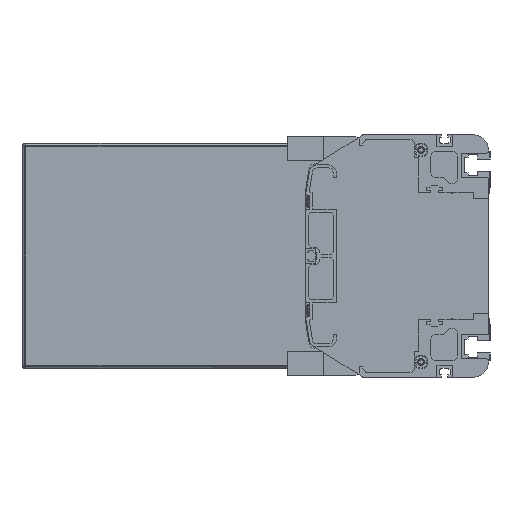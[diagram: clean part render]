
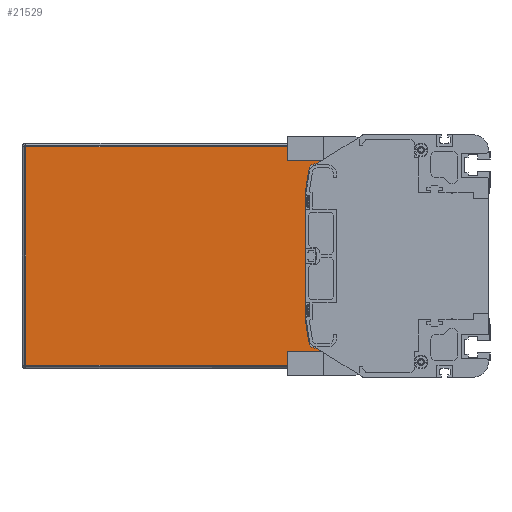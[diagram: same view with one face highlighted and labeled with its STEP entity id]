
A CAD part, left-side view. The second image highlights one B-rep face of the part: STEP entity #21529.
In plain terms, the highlighted planar face has unit normal (-1, 0, 0).
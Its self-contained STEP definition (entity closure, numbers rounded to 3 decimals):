
#260=DIRECTION('',(0.,-1.,0.));
#261=VECTOR('',#260,220.5);
#262=CARTESIAN_POINT('',(2486.5,306.5,-72.));
#263=LINE('',#262,#261);
#461=DIRECTION('',(0.,0.,-1.));
#462=VECTOR('',#461,11.);
#463=CARTESIAN_POINT('',(2486.5,86.,-61.));
#464=LINE('',#463,#462);
#470=DIRECTION('',(0.,0.,-1.));
#471=VECTOR('',#470,11.);
#472=CARTESIAN_POINT('',(2486.5,86.,72.));
#473=LINE('',#472,#471);
#479=CARTESIAN_POINT('',(2486.5,114.728,56.));
#480=DIRECTION('',(-1.,0.,0.));
#481=DIRECTION('',(0.,0.,1.));
#482=AXIS2_PLACEMENT_3D('',#479,#480,#481);
#484=DIRECTION('',(0.,0.156,-0.988));
#485=VECTOR('',#484,14.963);
#486=CARTESIAN_POINT('',(2486.5,119.666,56.78));
#487=LINE('',#486,#485);
#488=DIRECTION('',(0.,-0.156,-0.988));
#489=VECTOR('',#488,14.963);
#490=CARTESIAN_POINT('',(2486.5,122.,-42.));
#491=LINE('',#490,#489);
#492=CARTESIAN_POINT('',(2486.5,114.728,-56.));
#493=DIRECTION('',(-1.,0.,0.));
#494=DIRECTION('',(0.,0.988,-0.156));
#495=AXIS2_PLACEMENT_3D('',#492,#493,#494);
#501=DIRECTION('',(0.,0.,-1.));
#502=VECTOR('',#501,144.);
#503=CARTESIAN_POINT('',(2486.5,306.5,72.));
#504=LINE('',#503,#502);
#591=DIRECTION('',(0.,1.,0.));
#592=VECTOR('',#591,220.5);
#593=CARTESIAN_POINT('',(2486.5,86.,72.));
#594=LINE('',#593,#592);
#878=DIRECTION('',(0.,-1.,0.));
#879=VECTOR('',#878,28.728);
#880=CARTESIAN_POINT('',(2486.5,114.728,61.));
#881=LINE('',#880,#879);
#13190=DIRECTION('',(0.,1.,0.));
#13191=VECTOR('',#13190,28.728);
#13192=CARTESIAN_POINT('',(2486.5,86.,-61.));
#13193=LINE('',#13192,#13191);
#13210=DIRECTION('',(0.,0.,1.));
#13211=VECTOR('',#13210,84.);
#13212=CARTESIAN_POINT('',(2486.5,122.,-42.));
#13213=LINE('',#13212,#13211);
#17051=CARTESIAN_POINT('',(2486.5,306.5,-72.));
#17052=CARTESIAN_POINT('',(2486.5,86.,-72.));
#17053=VERTEX_POINT('',#17051);
#17054=VERTEX_POINT('',#17052);
#17055=CARTESIAN_POINT('',(2486.5,86.,-61.));
#17056=VERTEX_POINT('',#17055);
#17057=CARTESIAN_POINT('',(2486.5,114.728,-61.));
#17058=VERTEX_POINT('',#17057);
#17059=CARTESIAN_POINT('',(2486.5,119.666,-56.78));
#17060=VERTEX_POINT('',#17059);
#17061=CARTESIAN_POINT('',(2486.5,122.,-42.));
#17062=VERTEX_POINT('',#17061);
#17063=CARTESIAN_POINT('',(2486.5,122.,42.));
#17064=VERTEX_POINT('',#17063);
#17065=CARTESIAN_POINT('',(2486.5,119.666,56.78));
#17066=VERTEX_POINT('',#17065);
#17067=CARTESIAN_POINT('',(2486.5,114.728,61.));
#17068=VERTEX_POINT('',#17067);
#17069=CARTESIAN_POINT('',(2486.5,86.,61.));
#17070=VERTEX_POINT('',#17069);
#17071=CARTESIAN_POINT('',(2486.5,86.,72.));
#17072=VERTEX_POINT('',#17071);
#17073=CARTESIAN_POINT('',(2486.5,306.5,72.));
#17074=VERTEX_POINT('',#17073);
#21501=CARTESIAN_POINT('',(2486.5,196.25,0.));
#21502=DIRECTION('',(1.,0.,0.));
#21503=DIRECTION('',(0.,0.,-1.));
#21504=AXIS2_PLACEMENT_3D('',#21501,#21502,#21503);
#21505=PLANE('',#21504);
#21506=ORIENTED_EDGE('',*,*,#21056,.F.);
#21508=ORIENTED_EDGE('',*,*,#21507,.F.);
#21510=ORIENTED_EDGE('',*,*,#21509,.F.);
#21511=ORIENTED_EDGE('',*,*,#21494,.T.);
#21513=ORIENTED_EDGE('',*,*,#21512,.F.);
#21515=ORIENTED_EDGE('',*,*,#21514,.T.);
#21517=ORIENTED_EDGE('',*,*,#21516,.T.);
#21519=ORIENTED_EDGE('',*,*,#21518,.F.);
#21521=ORIENTED_EDGE('',*,*,#21520,.T.);
#21523=ORIENTED_EDGE('',*,*,#21522,.T.);
#21525=ORIENTED_EDGE('',*,*,#21524,.F.);
#21526=ORIENTED_EDGE('',*,*,#21462,.T.);
#21527=EDGE_LOOP('',(#21506,#21508,#21510,#21511,#21513,#21515,#21517,#21519,
#21521,#21523,#21525,#21526));
#21528=FACE_OUTER_BOUND('',#21527,.F.);
#21529=ADVANCED_FACE('',(#21528),#21505,.F.);
#483=CIRCLE('',#482,5.);
#496=CIRCLE('',#495,5.);
#21056=EDGE_CURVE('',#17053,#17054,#263,.T.);
#21462=EDGE_CURVE('',#17056,#17054,#464,.T.);
#21494=EDGE_CURVE('',#17072,#17070,#473,.T.);
#21507=EDGE_CURVE('',#17074,#17053,#504,.T.);
#21509=EDGE_CURVE('',#17072,#17074,#594,.T.);
#21512=EDGE_CURVE('',#17068,#17070,#881,.T.);
#21514=EDGE_CURVE('',#17068,#17066,#483,.T.);
#21516=EDGE_CURVE('',#17066,#17064,#487,.T.);
#21518=EDGE_CURVE('',#17062,#17064,#13213,.T.);
#21520=EDGE_CURVE('',#17062,#17060,#491,.T.);
#21522=EDGE_CURVE('',#17060,#17058,#496,.T.);
#21524=EDGE_CURVE('',#17056,#17058,#13193,.T.);
